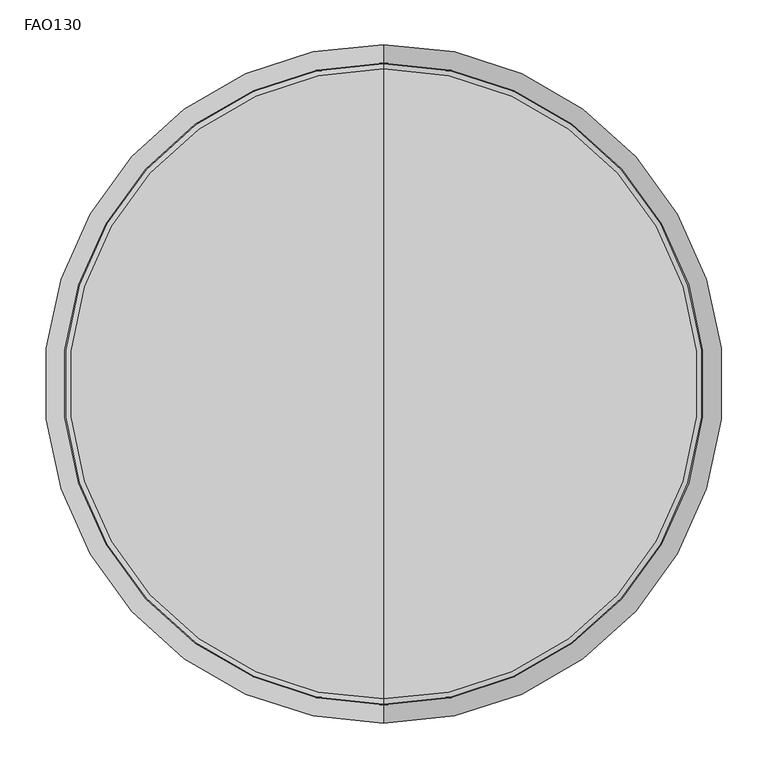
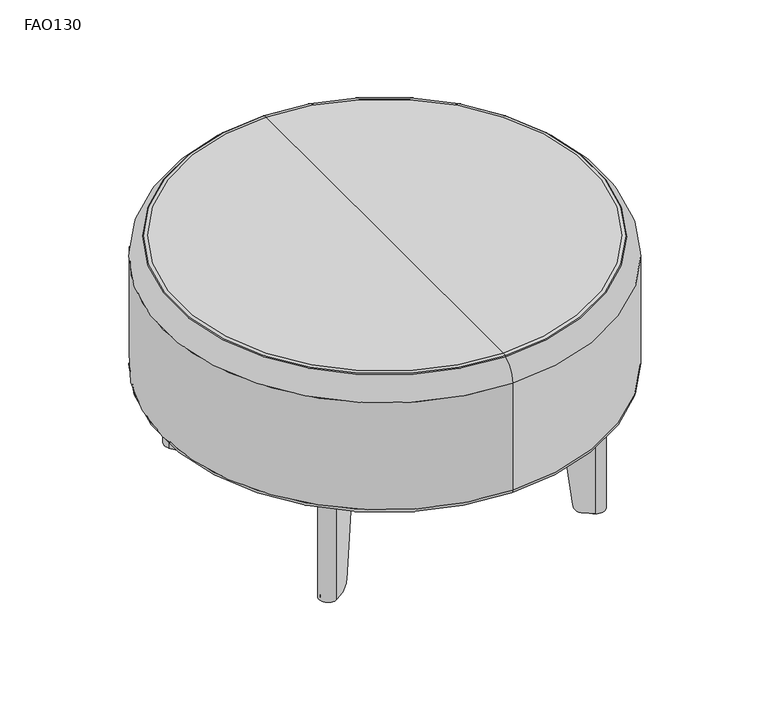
"""IFC4 building model written with IfcOpenShell, lengths in millimetres: furniture geometry, Stance_HC-Flora-Round_Otto : FAO130."""

import ifcopenshell
import ifcopenshell.guid

model = None  # the IFC model being written
_history = None  # IfcOwnerHistory: only IFC2X3 demands one
_inside = {}  # id of a spatial element -> (the spatial element, [elements in it])
_under = {}  # id of a project, library or spatial element -> (it, [spatial elements below it])
_declared = {}  # id of a project -> (the project, [libraries it declares])
_typed = {}  # id of a type object -> (the type object, [elements of that type])
_made_of = {}  # id of a material, layer set ... -> (it, [elements and type objects made of it])


def new_model(schema):
    """Start an empty IFC model of exactly this schema.

    Asked for "IFC4X3", IfcOpenShell would pick the latest addendum, in which some entities
    have other attributes; the version numbers below select the first issue.
    IFC2X3 requires an IfcOwnerHistory on every rooted entity: one is made here for all.
    """
    global model, _history
    if schema == "IFC4X3":
        model = ifcopenshell.file(schema_version=(4, 3, 0, 0))
    else:
        model = ifcopenshell.file(schema=schema)
    _inside.clear()
    _under.clear()
    _declared.clear()
    _typed.clear()
    _made_of.clear()
    _history = None
    if model.schema == "IFC2X3":
        org = make("IfcOrganization", Name="unknown")
        user = make(
            "IfcPersonAndOrganization",
            ThePerson=make("IfcPerson", FamilyName="unknown"),
            TheOrganization=org,
        )
        app = make(
            "IfcApplication",
            ApplicationDeveloper=org,
            Version="unknown",
            ApplicationFullName="unknown",
            ApplicationIdentifier="unknown",
        )
        _history = make(
            "IfcOwnerHistory",
            OwningUser=user,
            OwningApplication=app,
            ChangeAction="ADDED",
            CreationDate=0,
        )
    return model


def make(cls, **values):
    """One entity of the class cls with the attributes given. An attribute that is None is left unset."""
    return model.create_entity(
        cls, **{name: value for name, value in values.items() if value is not None}
    )


def rooted(cls, **values):
    """An entity with a GlobalId (a new one), such as an element, a storey or a relation."""
    return make(cls, GlobalId=ifcopenshell.guid.new(), OwnerHistory=_history, **values)


def si_unit(unit_type, name, prefix=None):
    """IfcSIUnit, for example si_unit("LENGTHUNIT", "METRE", prefix="MILLI")."""
    return make("IfcSIUnit", UnitType=unit_type, Prefix=prefix, Name=name)


def assignment(units):
    """IfcUnitAssignment: the units of a project."""
    return None if units is None else make("IfcUnitAssignment", Units=units)


def point(xyz):
    """IfcCartesianPoint."""
    return None if xyz is None else make("IfcCartesianPoint", Coordinates=xyz)


def direction(xyz):
    """IfcDirection."""
    return None if xyz is None else make("IfcDirection", DirectionRatios=xyz)


def frame(location, z_axis=None, x_axis=None):
    """IfcAxis2Placement3D, a coordinate frame: its origin and axes. An axis left out is left unset."""
    return make(
        "IfcAxis2Placement3D",
        Location=point(location),
        Axis=direction(z_axis),
        RefDirection=direction(x_axis),
    )


def frame_2d(location, x_axis=None):
    """IfcAxis2Placement2D, a coordinate frame in the plane: its origin and x axis."""
    return make(
        "IfcAxis2Placement2D", Location=point(location), RefDirection=direction(x_axis)
    )


def origin():
    """The frame at (0, 0, 0) with its axes left unset."""
    return frame((0.0, 0.0, 0.0))


def origin_with_axes():
    """The frame at (0, 0, 0) with the z axis (0, 0, 1) and the x axis (1, 0, 0) written out."""
    return frame((0.0, 0.0, 0.0), z_axis=(0.0, 0.0, 1.0), x_axis=(1.0, 0.0, 0.0))


def place(relative_to, where):
    """IfcLocalPlacement: puts the frame where relative to a parent placement (None: the world)."""
    return make(
        "IfcLocalPlacement", PlacementRelTo=relative_to, RelativePlacement=where
    )


def context(
    kind, dimensions, precision=None, world=None, true_north=None, identifier=None
):
    """IfcGeometricRepresentationContext, for example the 3D "Model" context."""
    return make(
        "IfcGeometricRepresentationContext",
        ContextIdentifier=identifier,
        ContextType=kind,
        CoordinateSpaceDimension=dimensions,
        Precision=precision,
        WorldCoordinateSystem=world,
        TrueNorth=true_north,
    )


def project(units=None, contexts=None):
    """IfcProject with its units and contexts."""
    return rooted(
        "IfcProject",
        Name="project",
        RepresentationContexts=contexts,
        UnitsInContext=assignment(units),
    )


def spatial(cls, under=None, at=None, **own):
    """A site, building, storey or space (cls), placed at a placement, below another one or the project."""
    s = rooted(cls, ObjectPlacement=at, **own)
    if under is not None:
        _under.setdefault(under.id(), (under, []))[1].append(s)
    return s


def polyline(points):
    """IfcPolyline through the points."""
    return make("IfcPolyline", Points=[point(p) for p in points])


def circle_curve(where, radius):
    """IfcCircle in the frame where."""
    return make("IfcCircle", Position=where, Radius=radius)


def ellipse_curve(where, semi_axis1, semi_axis2):
    """IfcEllipse in the frame where."""
    return make(
        "IfcEllipse", Position=where, SemiAxis1=semi_axis1, SemiAxis2=semi_axis2
    )


def trimmed(basis, trim1, trim2, sense, master):
    """IfcTrimmedCurve: the piece of a basis curve between two trims."""
    return make(
        "IfcTrimmedCurve",
        BasisCurve=basis,
        Trim1=trim1,
        Trim2=trim2,
        SenseAgreement=sense,
        MasterRepresentation=master,
    )


def segment(curve, same_sense, transition):
    """IfcCompositeCurveSegment."""
    return make(
        "IfcCompositeCurveSegment",
        Transition=transition,
        SameSense=same_sense,
        ParentCurve=curve,
    )


def composite_curve(segments, self_intersect=None):
    """IfcCompositeCurve: segments joined end to end."""
    return make("IfcCompositeCurve", Segments=segments, SelfIntersect=self_intersect)


def outline(outer, holes=None, kind="AREA"):
    """IfcArbitraryClosedProfileDef: a profile drawn as a closed curve; with holes, ...WithVoids."""
    if holes is None:
        return make("IfcArbitraryClosedProfileDef", ProfileType=kind, OuterCurve=outer)
    return make(
        "IfcArbitraryProfileDefWithVoids",
        ProfileType=kind,
        OuterCurve=outer,
        InnerCurves=holes,
    )


def extrude(swept, where, along, depth):
    """IfcExtrudedAreaSolid: the profile swept, set in the frame where, extruded along a direction by depth."""
    return make(
        "IfcExtrudedAreaSolid",
        SweptArea=swept,
        Position=where,
        ExtrudedDirection=direction(along),
        Depth=depth,
    )


def shape(context_of_items, identifier, shape_type, items):
    """IfcShapeRepresentation: the items that make up one representation, for example the "Body"."""
    return make(
        "IfcShapeRepresentation",
        ContextOfItems=context_of_items,
        RepresentationIdentifier=identifier,
        RepresentationType=shape_type,
        Items=items,
    )


def source(mapping_origin, context_of_items, identifier, shape_type, items):
    """IfcRepresentationMap: a shape defined once, which mapped items show again and again."""
    return make(
        "IfcRepresentationMap",
        MappingOrigin=mapping_origin,
        MappedRepresentation=shape(context_of_items, identifier, shape_type, items),
    )


def transform(
    local_origin,
    x_axis=None,
    y_axis=None,
    z_axis=None,
    scale=None,
    scale2=None,
    scale3=None,
    uniform=True,
):
    """IfcCartesianTransformationOperator3D, or its non-uniform kind. x_axis, y_axis, z_axis: its Axis1, 2, 3."""
    if uniform:
        return make(
            "IfcCartesianTransformationOperator3D",
            Axis1=direction(x_axis),
            Axis2=direction(y_axis),
            LocalOrigin=point(local_origin),
            Scale=scale,
            Axis3=direction(z_axis),
        )
    return make(
        "IfcCartesianTransformationOperator3DnonUniform",
        Axis1=direction(x_axis),
        Axis2=direction(y_axis),
        LocalOrigin=point(local_origin),
        Scale=scale,
        Axis3=direction(z_axis),
        Scale2=scale2,
        Scale3=scale3,
    )


def mapped(mapping_source, mapping_target):
    """IfcMappedItem: shows the shape of a source again, moved by a transform."""
    return make(
        "IfcMappedItem", MappingSource=mapping_source, MappingTarget=mapping_target
    )


def made_of(thing, what):
    """Note that an element or type object is made of a material, layer set ...; save() writes the relation."""
    if what is not None:
        _made_of.setdefault(what.id(), (what, []))[1].append(thing)
    return thing


def element(
    cls,
    number,
    at=None,
    inside=None,
    cuts=None,
    type_object=None,
    material=None,
    context=None,
    identifier="Body",
    shape_type=None,
    held_by="IfcProductDefinitionShape",
    body=None,
    shapes=None,
    **own,
):
    """One element of the class cls, such as IfcWall. Its Tag is "e" and its number.

    at: its placement. inside: the storey or other place that contains it. cuts: it is an
    opening in that element (IfcRelVoidsElement). A single representation is given by context,
    identifier, shape_type and body (its items); several are given by shapes. held_by: the class
    of the entity that holds the representations. save() writes the other relations.
    """
    e = rooted(cls, Tag="e%d" % number, ObjectPlacement=at, **own)
    if body is not None:
        shapes = [shape(context, identifier, shape_type, body)]
    if shapes is not None:
        e.Representation = make(held_by, Representations=shapes)
    if inside is not None:
        _inside.setdefault(inside.id(), (inside, []))[1].append(e)
    if cuts is not None:
        rooted(
            "IfcRelVoidsElement", RelatingBuildingElement=cuts, RelatedOpeningElement=e
        )
    if type_object is not None:
        _typed.setdefault(type_object.id(), (type_object, []))[1].append(e)
    return made_of(e, material)


def aggregate(whole, parts):
    """IfcRelAggregates: a whole, such as a stair, and the parts it consists of."""
    return rooted("IfcRelAggregates", RelatingObject=whole, RelatedObjects=parts)


def save(model, path):
    """Write the relations noted so far, then the file.

    IfcRelAggregates (storeys below a building ...), IfcRelContainedInSpatialStructure (elements
    in a storey), IfcRelDefinesByType, IfcRelAssociatesMaterial and IfcRelDeclares: one each for
    every whole, place, type object, material and project.
    """
    for whole, parts in _under.values():
        aggregate(whole, parts)
    for where, things in _inside.values():
        rooted(
            "IfcRelContainedInSpatialStructure",
            RelatedElements=things,
            RelatingStructure=where,
        )
    for kind, things in _typed.values():
        rooted("IfcRelDefinesByType", RelatedObjects=things, RelatingType=kind)
    for what, things in _made_of.values():
        rooted("IfcRelAssociatesMaterial", RelatedObjects=things, RelatingMaterial=what)
    for by, libraries in _declared.values():
        rooted("IfcRelDeclares", RelatingContext=by, RelatedDefinitions=libraries)
    model.write(path)


def plane_surface(at):
    """IfcPlane: the flat surface through the origin of the frame at, square to its z axis."""
    return make("IfcPlane", Position=at)


def cylinder_surface(at, radius):
    """IfcCylindricalSurface: all points at the distance radius from the z axis of the frame at."""
    return make("IfcCylindricalSurface", Position=at, Radius=radius)


def revolved_surface(curve, axis_point, axis_direction):
    """IfcSurfaceOfRevolution: the curve turned about the line through axis_point along axis_direction."""
    return make(
        "IfcSurfaceOfRevolution",
        SweptCurve=make("IfcArbitraryOpenProfileDef", ProfileType="CURVE", Curve=curve),
        AxisPosition=make("IfcAxis1Placement", Location=point(axis_point), Axis=direction(axis_direction)),
    )


def advanced_brep(points, edges, surfaces, faces):
    """IfcAdvancedBrep: a solid bounded by faces that lie on surfaces and meet in shared edges.

    An edge is (start, end): straight between two places in points (the first is 0);
    or (start, end, curve); or (start, end, curve, False) where it runs against its curve.
    A face is (place in surfaces, loops), or (place, loops, False) where it looks against
    its surface's normal. A loop lists edges by number (the first is 1), with a minus sign
    where the edge is run from its end to its start. The first loop is the outer one.
    """
    corners = [point(p) for p in points]
    vertices = [make("IfcVertexPoint", VertexGeometry=c) for c in corners]
    made = []
    for start, end, *more in edges:
        made.append(
            make(
                "IfcEdgeCurve",
                EdgeStart=vertices[start],
                EdgeEnd=vertices[end],
                EdgeGeometry=more[0] if more else make("IfcPolyline", Points=[corners[start], corners[end]]),
                SameSense=more[1] if len(more) > 1 else True,
            )
        )
    hull = []
    for where, loops, *sense in faces:
        bounds = []
        for j, loop in enumerate(loops):
            ring = [make("IfcOrientedEdge", EdgeElement=made[abs(k) - 1], Orientation=k > 0) for k in loop]
            bounds.append(
                make(
                    "IfcFaceOuterBound" if j == 0 else "IfcFaceBound",
                    Bound=make("IfcEdgeLoop", EdgeList=ring),
                    Orientation=True,
                )
            )
        hull.append(make("IfcAdvancedFace", Bounds=bounds, FaceSurface=surfaces[where], SameSense=sense[0] if sense else True))
    return make("IfcAdvancedBrep", Outer=make("IfcClosedShell", CfsFaces=hull))


def fao130_a09f7fab(model_context):
    return source(origin(), model_context, "Body", "SolidModel", [
        extrude(outline(composite_curve([segment(polyline([(210.6779251, -230.806629), (230.815006, -210.669548), (240.1312333, -223.9744477)]), True, "CONTINUOUS"), segment(trimmed(circle_curve(frame_2d((230.6333442, -230.6249671)), 11.5947965), [point((240.1312333, -223.9744477))], [point((223.9828248, -240.1228563))], False, "CARTESIAN"), True, "CONTINUOUS"), segment(polyline([(223.9828248, -240.1228563), (210.6779251, -230.806629)]), True, "CONTINUOUS")], self_intersect=False)), frame((0.0, 0.0, 3.175), z_axis=(0.0, 0.0, 1.0), x_axis=(1.0, 0.0, 0.0)), (0.0, 0.0, 1.0), 3.3792927),
        advanced_brep(
        [(210.8401042, -176.5386381, 193.6877233), (208.2071268, -178.3822758, 193.6877233), (240.1312333, -223.9744477, 193.6877233), (223.9828248, -240.1228563, 193.6877233), (178.3906556, -208.1987516, 193.6877233), (176.5470178, -210.831729, 193.6877233), (222.1391871, -242.7558336, 193.6877233), (242.7642107, -222.13081, 193.6877233), (210.8401042, -176.5386381, 189.1419595), (220.8334277, -196.4144322, 17.1280233), (230.0105238, -209.5206327, 3.1876992), (240.1312333, -223.9744477, 3.1876992), (223.9828248, -240.1228563, 3.1876992), (209.5290098, -230.0021467, 3.1876992), (196.4228092, -220.8250506, 17.1280233), (176.5470178, -210.831729, 189.1419334), (194.1149115, -223.1329483, 17.1280233), (207.2211121, -232.3100444, 3.1876992), (222.1391871, -242.7558336, 3.1876992), (242.7642107, -222.13081, 3.1876992), (232.3184215, -207.212735, 3.1876992), (223.1413254, -194.1065344, 17.1280233)],
        [
            (0, 1),
            (1, 2),
            (2, 3, circle_curve(frame((230.6333442, -230.6249671, 193.6877233), z_axis=(0.0, 0.0, -1.0), x_axis=(-1.0, 0.0, 0.0)), 11.5947965)),
            (3, 4),
            (4, 5),
            (5, 6),
            (6, 7, circle_curve(frame((230.6333442, -230.6249671, 193.6877233), z_axis=(0.0, 0.0, 1.0), x_axis=(-1.0, 0.0, 0.0)), 14.8090724)),
            (7, 0),
            (0, 8),
            (8, 1),
            (1, 9),
            (9, 10, ellipse_curve(frame((230.0105238, -209.5206327, 19.0626992), z_axis=(-0.8191509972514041, -0.5735779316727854, 0.0), x_axis=(-0.5735779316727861, 0.8191509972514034, 0.0)), 16.1198923, 15.875)),
            (10, 11),
            (11, 2),
            (11, 12, circle_curve(frame((230.6333442, -230.6249671, 3.1876992), z_axis=(0.0, 0.0, -1.0), x_axis=(-1.0, 0.0, 0.0)), 11.5947965)),
            (12, 3),
            (12, 13),
            (13, 14, ellipse_curve(frame((209.5290098, -230.0021467, 19.0626992), z_axis=(0.5735779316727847, 0.8191509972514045, 0.0), x_axis=(0.8191509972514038, -0.5735779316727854, 0.0)), 16.1198923, 15.875)),
            (14, 4),
            (4, 15),
            (15, 5),
            (15, 16),
            (16, 17, ellipse_curve(frame((207.2211121, -232.3100444, 19.0626992), z_axis=(-0.5735779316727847, -0.8191509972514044, 0.0), x_axis=(0.8191509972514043, -0.573577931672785, 0.0)), 16.1198923, 15.875)),
            (17, 18),
            (18, 6),
            (18, 19, circle_curve(frame((230.6333442, -230.6249671, 3.1876992), z_axis=(0.0, 0.0, 1.0), x_axis=(-1.0, 0.0, 0.0)), 14.8090724)),
            (19, 7),
            (19, 20),
            (20, 21, ellipse_curve(frame((232.3184215, -207.212735, 19.0626992), z_axis=(0.8191509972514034, 0.5735779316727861, 0.0), x_axis=(-0.5735779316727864, 0.8191509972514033, 0.0)), 16.1198923, 15.875)),
            (21, 8),
            (14, 16),
            (21, 9),
            (17, 13),
            (10, 20),
        ],
        [
            plane_surface(frame((208.2071268, -178.3822758, 193.6877233), z_axis=(0.0, 0.0, 1.0000000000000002), x_axis=(-0.8191509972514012, -0.5735779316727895, 0.0))),
            plane_surface(frame((210.8401042, -176.5386381, 193.6877233), z_axis=(-0.5735779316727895, 0.8191509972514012, 0.0), x_axis=(0.0, 0.0, -1.0))),
            plane_surface(frame((208.2071268, -178.3822758, 193.6877233), z_axis=(-0.8191509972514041, -0.5735779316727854, 0.0), x_axis=(0.0, 0.0, -1.0))),
            revolved_surface(polyline([(219.0385477, -230.6249671, 3.1876992), (219.0385477, -230.6249671, 193.6877233)]), (230.6333442, -230.6249671, 0.0), (0.0, 0.0, -1.0)),
            plane_surface(frame((223.9828248, -240.1228563, 193.6877233), z_axis=(0.5735779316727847, 0.8191509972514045, 0.0), x_axis=(0.0, 0.0, -1.0))),
            plane_surface(frame((178.3906556, -208.1987516, 193.6877233), z_axis=(-0.8191509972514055, 0.5735779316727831, 0.0), x_axis=(0.0, 0.0, -1.0))),
            plane_surface(frame((176.5470178, -210.831729, 193.6877233), z_axis=(-0.5735779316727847, -0.8191509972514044, 0.0), x_axis=(0.0, 0.0, -1.0))),
            cylinder_surface(frame((230.6333442, -230.6249671, 0.0), z_axis=(0.0, 0.0, 1.0), x_axis=(-1.0, 0.0, 0.0)), 14.8090724),
            plane_surface(frame((242.7642107, -222.13081, 193.6877233), z_axis=(0.8191509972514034, 0.5735779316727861, 0.0), x_axis=(0.0, 0.0, -1.0))),
            plane_surface(frame((188.2311084, -229.0167515, 17.1280233), z_axis=(-0.7018361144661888, 0.7018361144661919, -0.12186934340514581), x_axis=(0.7071067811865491, 0.707106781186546, 0.0))),
            plane_surface(frame((220.7214639, -261.5071069, 3.1876992), z_axis=(0.0, 0.0, -1.0), x_axis=(0.707106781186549, 0.707106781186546, 0.0))),
            cylinder_surface(frame((240.1583998, -199.3727567, 19.0626992), z_axis=(0.7071067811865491, 0.707106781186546, 0.0), x_axis=(-0.707106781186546, 0.7071067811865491, 0.0)), 15.875),
        ],
        [
            (0, [[1, 2, 3, 4, 5, 6, 7, 8]]),
            (1, [[-1, 9, 10]]),
            (2, [[-2, 11, 12, 13, 14]]),
            (3, [[-3, -14, 15, 16]]),
            (4, [[-4, -16, 17, 18, 19]]),
            (5, [[-5, 20, 21]]),
            (6, [[-6, -21, 22, 23, 24, 25]]),
            (7, [[-7, -25, 26, 27]]),
            (8, [[-8, -27, 28, 29, 30, -9]]),
            (9, [[31, -22, -20, -19]]),
            (9, [[32, -11, -10, -30]]),
            (10, [[33, -17, -15, -13, 34, -28, -26, -24]]),
            (11, [[-31, -18, -33, -23]]),
            (11, [[-32, -29, -34, -12]]),
        ],
    ),
        extrude(outline(composite_curve([segment(trimmed(circle_curve(frame_2d((228.6, -228.6)), 11.1125), [point((239.7125, -228.6))], [point((217.4875, -228.6))], False, "CARTESIAN"), True, "CONTINUOUS"), segment(trimmed(circle_curve(frame_2d((228.6, -228.6)), 11.1125), [point((217.4875, -228.6))], [point((239.7125, -228.6))], False, "CARTESIAN"), True, "CONTINUOUS")], self_intersect=False)), origin_with_axes(), (0.0, 0.0, 1.0), 3.175),
        extrude(outline(composite_curve([segment(polyline([(230.8450687, -247.7804017), (130.7836699, -240.7834282), (100.9332978, -210.9330561), (126.9983323, -126.9899477), (210.9414324, -100.9249287), (240.7918062, -130.7752971), (247.788778, -230.8366927)]), True, "CONTINUOUS"), segment(trimmed(circle_curve(frame_2d((231.9524523, -231.9440761)), 15.8749964), [point((247.788778, -230.8366927))], [point((230.8450687, -247.7804017))], False, "CARTESIAN"), True, "CONTINUOUS")], self_intersect=False)), frame((0.0, 0.0, 193.6877233), z_axis=(0.0, 0.0, 1.0), x_axis=(1.0, 0.0, 0.0)), (0.0, 0.0, 1.0), 4.7751809),
        extrude(outline(composite_curve([segment(polyline([(-210.6779251, -230.806629), (-223.9828248, -240.1228563)]), True, "CONTINUOUS"), segment(trimmed(circle_curve(frame_2d((-230.6333442, -230.6249671)), 11.5947965), [point((-223.9828248, -240.1228563))], [point((-240.1312333, -223.9744477))], False, "CARTESIAN"), True, "CONTINUOUS"), segment(polyline([(-240.1312333, -223.9744477), (-230.815006, -210.669548), (-210.6779251, -230.806629)]), True, "CONTINUOUS")], self_intersect=False)), frame((0.0, 0.0, 3.175), z_axis=(0.0, 0.0, 1.0), x_axis=(1.0, 0.0, 0.0)), (0.0, 0.0, 1.0), 3.3792927),
        advanced_brep(
        [(-210.8401042, -176.5386381, 193.6877233), (-242.7642107, -222.13081, 193.6877233), (-222.1391871, -242.7558336, 193.6877233), (-176.5470178, -210.831729, 193.6877233), (-178.3906556, -208.1987516, 193.6877233), (-223.9828248, -240.1228563, 193.6877233), (-240.1312333, -223.9744477, 193.6877233), (-208.2071268, -178.3822758, 193.6877233), (-210.8401042, -176.5386381, 189.1419595), (-240.1312333, -223.9744477, 3.1876992), (-230.0105238, -209.5206327, 3.1876992), (-220.8334277, -196.4144322, 17.1280233), (-223.9828248, -240.1228563, 3.1876992), (-196.4228092, -220.8250506, 17.1280233), (-209.5290098, -230.0021467, 3.1876992), (-176.5470178, -210.831729, 189.1419334), (-222.1391871, -242.7558336, 3.1876992), (-207.2211121, -232.3100444, 3.1876992), (-194.1149115, -223.1329483, 17.1280233), (-242.7642107, -222.13081, 3.1876992), (-223.1413254, -194.1065344, 17.1280233), (-232.3184215, -207.212735, 3.1876992)],
        [
            (0, 1),
            (1, 2, circle_curve(frame((-230.6333442, -230.6249671, 193.6877233), z_axis=(0.0, 0.0, 1.0), x_axis=(1.0, 0.0, 0.0)), 14.8090724)),
            (2, 3),
            (3, 4),
            (4, 5),
            (5, 6, circle_curve(frame((-230.6333442, -230.6249671, 193.6877233), z_axis=(0.0, 0.0, -1.0), x_axis=(1.0, 0.0, 0.0)), 11.5947965)),
            (6, 7),
            (7, 0),
            (7, 8),
            (8, 0),
            (6, 9),
            (9, 10),
            (10, 11, ellipse_curve(frame((-230.0105238, -209.5206327, 19.0626992), z_axis=(0.8191509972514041, -0.5735779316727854, 0.0), x_axis=(0.5735779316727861, 0.8191509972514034, 0.0)), 16.1198923, 15.875)),
            (11, 7),
            (5, 12),
            (12, 9, circle_curve(frame((-230.6333442, -230.6249671, 3.1876992), z_axis=(0.0, 0.0, -1.0), x_axis=(1.0, 0.0, 0.0)), 11.5947965)),
            (4, 13),
            (13, 14, ellipse_curve(frame((-209.5290098, -230.0021467, 19.0626992), z_axis=(-0.5735779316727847, 0.8191509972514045, 0.0), x_axis=(-0.8191509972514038, -0.5735779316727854, 0.0)), 16.1198923, 15.875)),
            (14, 12),
            (3, 15),
            (15, 4),
            (2, 16),
            (16, 17),
            (17, 18, ellipse_curve(frame((-207.2211121, -232.3100444, 19.0626992), z_axis=(0.5735779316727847, -0.8191509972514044, 0.0), x_axis=(-0.8191509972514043, -0.573577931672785, 0.0)), 16.1198923, 15.875)),
            (18, 15),
            (1, 19),
            (19, 16, circle_curve(frame((-230.6333442, -230.6249671, 3.1876992), z_axis=(0.0, 0.0, 1.0), x_axis=(1.0, 0.0, 0.0)), 14.8090724)),
            (8, 20),
            (20, 21, ellipse_curve(frame((-232.3184215, -207.212735, 19.0626992), z_axis=(-0.8191509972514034, 0.5735779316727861, 0.0), x_axis=(0.5735779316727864, 0.8191509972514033, 0.0)), 16.1198923, 15.875)),
            (21, 19),
            (18, 13),
            (11, 20),
            (21, 10),
            (14, 17),
        ],
        [
            plane_surface(frame((-208.2071268, -178.3822758, 193.6877233), z_axis=(0.0, 0.0, 1.0000000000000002), x_axis=(0.8191509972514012, -0.5735779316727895, 0.0))),
            plane_surface(frame((-210.8401042, -176.5386381, 193.6877233), z_axis=(0.5735779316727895, 0.8191509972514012, 0.0), x_axis=(0.0, 0.0, -1.0))),
            plane_surface(frame((-208.2071268, -178.3822758, 193.6877233), z_axis=(0.8191509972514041, -0.5735779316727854, 0.0), x_axis=(0.0, 0.0, -1.0))),
            revolved_surface(polyline([(-219.0385477, -230.6249671, 3.1876992), (-219.0385477, -230.6249671, 193.6877233)]), (-230.6333442, -230.6249671, 0.0), (0.0, 0.0, -1.0)),
            plane_surface(frame((-223.9828248, -240.1228563, 193.6877233), z_axis=(-0.5735779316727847, 0.8191509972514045, 0.0), x_axis=(0.0, 0.0, -1.0))),
            plane_surface(frame((-178.3906556, -208.1987516, 193.6877233), z_axis=(0.8191509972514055, 0.5735779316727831, 0.0), x_axis=(0.0, 0.0, -1.0))),
            plane_surface(frame((-176.5470178, -210.831729, 193.6877233), z_axis=(0.5735779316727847, -0.8191509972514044, 0.0), x_axis=(0.0, 0.0, -1.0))),
            cylinder_surface(frame((-230.6333442, -230.6249671, 0.0), z_axis=(0.0, 0.0, 1.0), x_axis=(1.0, 0.0, 0.0)), 14.8090724),
            plane_surface(frame((-242.7642107, -222.13081, 193.6877233), z_axis=(-0.8191509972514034, 0.5735779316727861, 0.0), x_axis=(0.0, 0.0, -1.0))),
            plane_surface(frame((-188.2311084, -229.0167515, 17.1280233), z_axis=(0.7018361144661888, 0.7018361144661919, -0.12186934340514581), x_axis=(-0.7071067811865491, 0.707106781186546, 0.0))),
            plane_surface(frame((-220.7214639, -261.5071069, 3.1876992), z_axis=(0.0, 0.0, -1.0), x_axis=(-0.707106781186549, 0.707106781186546, 0.0))),
            cylinder_surface(frame((-240.1583998, -199.3727567, 19.0626992), z_axis=(-0.7071067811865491, 0.707106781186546, 0.0), x_axis=(0.707106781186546, 0.7071067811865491, 0.0)), 15.875),
        ],
        [
            (0, [[1, 2, 3, 4, 5, 6, 7, 8]]),
            (1, [[9, 10, -8]]),
            (2, [[11, 12, 13, 14, -7]]),
            (3, [[15, 16, -11, -6]]),
            (4, [[17, 18, 19, -15, -5]]),
            (5, [[20, 21, -4]]),
            (6, [[22, 23, 24, 25, -20, -3]]),
            (7, [[26, 27, -22, -2]]),
            (8, [[-10, 28, 29, 30, -26, -1]]),
            (9, [[-17, -21, -25, 31]]),
            (9, [[-28, -9, -14, 32]]),
            (10, [[-23, -27, -30, 33, -12, -16, -19, 34]]),
            (11, [[-13, -33, -29, -32]]),
            (11, [[-24, -34, -18, -31]]),
        ],
    ),
        extrude(outline(composite_curve([segment(trimmed(circle_curve(frame_2d((-228.6, -228.6)), 11.1125), [point((-239.7125, -228.6))], [point((-217.4875, -228.6))], False, "CARTESIAN"), True, "CONTINUOUS"), segment(trimmed(circle_curve(frame_2d((-228.6, -228.6)), 11.1125), [point((-217.4875, -228.6))], [point((-239.7125, -228.6))], False, "CARTESIAN"), True, "CONTINUOUS")], self_intersect=False)), origin_with_axes(), (0.0, 0.0, 1.0), 3.175),
        extrude(outline(composite_curve([segment(trimmed(circle_curve(frame_2d((-231.9524523, -231.9440761)), 15.8749964), [point((-230.8450687, -247.7804017))], [point((-247.788778, -230.8366927))], False, "CARTESIAN"), True, "CONTINUOUS"), segment(polyline([(-247.788778, -230.8366927), (-240.7918062, -130.7752971), (-210.9414324, -100.9249287), (-126.9983323, -126.9899477), (-100.9332978, -210.9330561), (-130.7836699, -240.7834282), (-230.8450687, -247.7804017)]), True, "CONTINUOUS")], self_intersect=False)), frame((0.0, 0.0, 193.6877233), z_axis=(0.0, 0.0, 1.0), x_axis=(1.0, 0.0, 0.0)), (0.0, 0.0, 1.0), 4.7751809),
        extrude(outline(composite_curve([segment(polyline([(210.6779251, 230.806629), (223.9828248, 240.1228563)]), True, "CONTINUOUS"), segment(trimmed(circle_curve(frame_2d((230.6333442, 230.6249671)), 11.5947965), [point((223.9828248, 240.1228563))], [point((240.1312333, 223.9744477))], False, "CARTESIAN"), True, "CONTINUOUS"), segment(polyline([(240.1312333, 223.9744477), (230.815006, 210.669548), (210.6779251, 230.806629)]), True, "CONTINUOUS")], self_intersect=False)), frame((0.0, 0.0, 3.175), z_axis=(0.0, 0.0, 1.0), x_axis=(1.0, 0.0, 0.0)), (0.0, 0.0, 1.0), 3.3792927),
        advanced_brep(
        [(210.8401042, 176.5386381, 193.6877233), (242.7642107, 222.13081, 193.6877233), (222.1391871, 242.7558336, 193.6877233), (176.5470178, 210.831729, 193.6877233), (178.3906556, 208.1987516, 193.6877233), (223.9828248, 240.1228563, 193.6877233), (240.1312333, 223.9744477, 193.6877233), (208.2071268, 178.3822758, 193.6877233), (210.8401042, 176.5386381, 189.1419595), (240.1312333, 223.9744477, 3.1876992), (230.0105238, 209.5206327, 3.1876992), (220.8334277, 196.4144322, 17.1280233), (223.9828248, 240.1228563, 3.1876992), (196.4228092, 220.8250506, 17.1280233), (209.5290098, 230.0021467, 3.1876992), (176.5470178, 210.831729, 189.1419334), (222.1391871, 242.7558336, 3.1876992), (207.2211121, 232.3100444, 3.1876992), (194.1149115, 223.1329483, 17.1280233), (242.7642107, 222.13081, 3.1876992), (223.1413254, 194.1065344, 17.1280233), (232.3184215, 207.212735, 3.1876992)],
        [
            (0, 1),
            (1, 2, circle_curve(frame((230.6333442, 230.6249671, 193.6877233), z_axis=(0.0, 0.0, 1.0), x_axis=(-1.0, 0.0, 0.0)), 14.8090724)),
            (2, 3),
            (3, 4),
            (4, 5),
            (5, 6, circle_curve(frame((230.6333442, 230.6249671, 193.6877233), z_axis=(0.0, 0.0, -1.0), x_axis=(-1.0, 0.0, 0.0)), 11.5947965)),
            (6, 7),
            (7, 0),
            (7, 8),
            (8, 0),
            (6, 9),
            (9, 10),
            (10, 11, ellipse_curve(frame((230.0105238, 209.5206327, 19.0626992), z_axis=(-0.8191509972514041, 0.5735779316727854, 0.0), x_axis=(-0.5735779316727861, -0.8191509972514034, 0.0)), 16.1198923, 15.875)),
            (11, 7),
            (5, 12),
            (12, 9, circle_curve(frame((230.6333442, 230.6249671, 3.1876992), z_axis=(0.0, 0.0, -1.0), x_axis=(-1.0, 0.0, 0.0)), 11.5947965)),
            (4, 13),
            (13, 14, ellipse_curve(frame((209.5290098, 230.0021467, 19.0626992), z_axis=(0.5735779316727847, -0.8191509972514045, 0.0), x_axis=(0.8191509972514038, 0.5735779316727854, 0.0)), 16.1198923, 15.875)),
            (14, 12),
            (3, 15),
            (15, 4),
            (2, 16),
            (16, 17),
            (17, 18, ellipse_curve(frame((207.2211121, 232.3100444, 19.0626992), z_axis=(-0.5735779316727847, 0.8191509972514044, 0.0), x_axis=(0.8191509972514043, 0.573577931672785, 0.0)), 16.1198923, 15.875)),
            (18, 15),
            (1, 19),
            (19, 16, circle_curve(frame((230.6333442, 230.6249671, 3.1876992), z_axis=(0.0, 0.0, 1.0), x_axis=(-1.0, 0.0, 0.0)), 14.8090724)),
            (8, 20),
            (20, 21, ellipse_curve(frame((232.3184215, 207.212735, 19.0626992), z_axis=(0.8191509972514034, -0.5735779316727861, 0.0), x_axis=(-0.5735779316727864, -0.8191509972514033, 0.0)), 16.1198923, 15.875)),
            (21, 19),
            (18, 13),
            (11, 20),
            (21, 10),
            (14, 17),
        ],
        [
            plane_surface(frame((208.2071268, 178.3822758, 193.6877233), z_axis=(0.0, 0.0, 1.0000000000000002), x_axis=(-0.8191509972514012, 0.5735779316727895, 0.0))),
            plane_surface(frame((210.8401042, 176.5386381, 193.6877233), z_axis=(-0.5735779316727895, -0.8191509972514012, 0.0), x_axis=(0.0, 0.0, -1.0))),
            plane_surface(frame((208.2071268, 178.3822758, 193.6877233), z_axis=(-0.8191509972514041, 0.5735779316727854, 0.0), x_axis=(0.0, 0.0, -1.0))),
            revolved_surface(polyline([(219.0385477, 230.6249671, 3.1876992), (219.0385477, 230.6249671, 193.6877233)]), (230.6333442, 230.6249671, 0.0), (0.0, 0.0, -1.0)),
            plane_surface(frame((223.9828248, 240.1228563, 193.6877233), z_axis=(0.5735779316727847, -0.8191509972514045, 0.0), x_axis=(0.0, 0.0, -1.0))),
            plane_surface(frame((178.3906556, 208.1987516, 193.6877233), z_axis=(-0.8191509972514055, -0.5735779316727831, 0.0), x_axis=(0.0, 0.0, -1.0))),
            plane_surface(frame((176.5470178, 210.831729, 193.6877233), z_axis=(-0.5735779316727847, 0.8191509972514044, 0.0), x_axis=(0.0, 0.0, -1.0))),
            cylinder_surface(frame((230.6333442, 230.6249671, 0.0), z_axis=(0.0, 0.0, 1.0), x_axis=(-1.0, 0.0, 0.0)), 14.8090724),
            plane_surface(frame((242.7642107, 222.13081, 193.6877233), z_axis=(0.8191509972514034, -0.5735779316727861, 0.0), x_axis=(0.0, 0.0, -1.0))),
            plane_surface(frame((188.2311084, 229.0167515, 17.1280233), z_axis=(-0.7018361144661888, -0.7018361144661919, -0.12186934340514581), x_axis=(0.7071067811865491, -0.707106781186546, 0.0))),
            plane_surface(frame((220.7214639, 261.5071069, 3.1876992), z_axis=(0.0, 0.0, -1.0), x_axis=(0.707106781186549, -0.707106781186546, 0.0))),
            cylinder_surface(frame((240.1583998, 199.3727567, 19.0626992), z_axis=(0.7071067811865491, -0.707106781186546, 0.0), x_axis=(-0.707106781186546, -0.7071067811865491, 0.0)), 15.875),
        ],
        [
            (0, [[1, 2, 3, 4, 5, 6, 7, 8]]),
            (1, [[9, 10, -8]]),
            (2, [[11, 12, 13, 14, -7]]),
            (3, [[15, 16, -11, -6]]),
            (4, [[17, 18, 19, -15, -5]]),
            (5, [[20, 21, -4]]),
            (6, [[22, 23, 24, 25, -20, -3]]),
            (7, [[26, 27, -22, -2]]),
            (8, [[-10, 28, 29, 30, -26, -1]]),
            (9, [[-17, -21, -25, 31]]),
            (9, [[-28, -9, -14, 32]]),
            (10, [[-23, -27, -30, 33, -12, -16, -19, 34]]),
            (11, [[-13, -33, -29, -32]]),
            (11, [[-24, -34, -18, -31]]),
        ],
    ),
        extrude(outline(composite_curve([segment(trimmed(circle_curve(frame_2d((228.6, 228.6)), 11.1125), [point((239.7125, 228.6))], [point((217.4875, 228.6))], False, "CARTESIAN"), True, "CONTINUOUS"), segment(trimmed(circle_curve(frame_2d((228.6, 228.6)), 11.1125), [point((217.4875, 228.6))], [point((239.7125, 228.6))], False, "CARTESIAN"), True, "CONTINUOUS")], self_intersect=False)), origin_with_axes(), (0.0, 0.0, 1.0), 3.175),
        extrude(outline(composite_curve([segment(trimmed(circle_curve(frame_2d((231.9524523, 231.9440761)), 15.8749964), [point((230.8450687, 247.7804017))], [point((247.788778, 230.8366927))], False, "CARTESIAN"), True, "CONTINUOUS"), segment(polyline([(247.788778, 230.8366927), (240.7918062, 130.7752971), (210.9414324, 100.9249287), (126.9983323, 126.9899477), (100.9332978, 210.9330561), (130.7836699, 240.7834282), (230.8450687, 247.7804017)]), True, "CONTINUOUS")], self_intersect=False)), frame((0.0, 0.0, 193.6877233), z_axis=(0.0, 0.0, 1.0), x_axis=(1.0, 0.0, 0.0)), (0.0, 0.0, 1.0), 4.7751809),
        extrude(outline(composite_curve([segment(polyline([(-210.6779251, 230.806629), (-230.815006, 210.669548), (-240.1312333, 223.9744477)]), True, "CONTINUOUS"), segment(trimmed(circle_curve(frame_2d((-230.6333442, 230.6249671)), 11.5947965), [point((-240.1312333, 223.9744477))], [point((-223.9828248, 240.1228563))], False, "CARTESIAN"), True, "CONTINUOUS"), segment(polyline([(-223.9828248, 240.1228563), (-210.6779251, 230.806629)]), True, "CONTINUOUS")], self_intersect=False)), frame((0.0, 0.0, 3.175), z_axis=(0.0, 0.0, 1.0), x_axis=(1.0, 0.0, 0.0)), (0.0, 0.0, 1.0), 3.3792927),
        advanced_brep(
        [(-210.8401042, 176.5386381, 193.6877233), (-208.2071268, 178.3822758, 193.6877233), (-240.1312333, 223.9744477, 193.6877233), (-223.9828248, 240.1228563, 193.6877233), (-178.3906556, 208.1987516, 193.6877233), (-176.5470178, 210.831729, 193.6877233), (-222.1391871, 242.7558336, 193.6877233), (-242.7642107, 222.13081, 193.6877233), (-210.8401042, 176.5386381, 189.1419595), (-220.8334277, 196.4144322, 17.1280233), (-230.0105238, 209.5206327, 3.1876992), (-240.1312333, 223.9744477, 3.1876992), (-223.9828248, 240.1228563, 3.1876992), (-209.5290098, 230.0021467, 3.1876992), (-196.4228092, 220.8250506, 17.1280233), (-176.5470178, 210.831729, 189.1419334), (-194.1149115, 223.1329483, 17.1280233), (-207.2211121, 232.3100444, 3.1876992), (-222.1391871, 242.7558336, 3.1876992), (-242.7642107, 222.13081, 3.1876992), (-232.3184215, 207.212735, 3.1876992), (-223.1413254, 194.1065344, 17.1280233)],
        [
            (0, 1),
            (1, 2),
            (2, 3, circle_curve(frame((-230.6333442, 230.6249671, 193.6877233), z_axis=(0.0, 0.0, -1.0), x_axis=(1.0, 0.0, 0.0)), 11.5947965)),
            (3, 4),
            (4, 5),
            (5, 6),
            (6, 7, circle_curve(frame((-230.6333442, 230.6249671, 193.6877233), z_axis=(0.0, 0.0, 1.0), x_axis=(1.0, 0.0, 0.0)), 14.8090724)),
            (7, 0),
            (0, 8),
            (8, 1),
            (1, 9),
            (9, 10, ellipse_curve(frame((-230.0105238, 209.5206327, 19.0626992), z_axis=(0.8191509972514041, 0.5735779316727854, 0.0), x_axis=(0.5735779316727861, -0.8191509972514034, 0.0)), 16.1198923, 15.875)),
            (10, 11),
            (11, 2),
            (11, 12, circle_curve(frame((-230.6333442, 230.6249671, 3.1876992), z_axis=(0.0, 0.0, -1.0), x_axis=(1.0, 0.0, 0.0)), 11.5947965)),
            (12, 3),
            (12, 13),
            (13, 14, ellipse_curve(frame((-209.5290098, 230.0021467, 19.0626992), z_axis=(-0.5735779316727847, -0.8191509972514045, 0.0), x_axis=(-0.8191509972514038, 0.5735779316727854, 0.0)), 16.1198923, 15.875)),
            (14, 4),
            (4, 15),
            (15, 5),
            (15, 16),
            (16, 17, ellipse_curve(frame((-207.2211121, 232.3100444, 19.0626992), z_axis=(0.5735779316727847, 0.8191509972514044, 0.0), x_axis=(-0.8191509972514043, 0.573577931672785, 0.0)), 16.1198923, 15.875)),
            (17, 18),
            (18, 6),
            (18, 19, circle_curve(frame((-230.6333442, 230.6249671, 3.1876992), z_axis=(0.0, 0.0, 1.0), x_axis=(1.0, 0.0, 0.0)), 14.8090724)),
            (19, 7),
            (19, 20),
            (20, 21, ellipse_curve(frame((-232.3184215, 207.212735, 19.0626992), z_axis=(-0.8191509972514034, -0.5735779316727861, 0.0), x_axis=(0.5735779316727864, -0.8191509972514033, 0.0)), 16.1198923, 15.875)),
            (21, 8),
            (14, 16),
            (21, 9),
            (17, 13),
            (10, 20),
        ],
        [
            plane_surface(frame((-208.2071268, 178.3822758, 193.6877233), z_axis=(0.0, 0.0, 1.0000000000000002), x_axis=(0.8191509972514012, 0.5735779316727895, 0.0))),
            plane_surface(frame((-210.8401042, 176.5386381, 193.6877233), z_axis=(0.5735779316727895, -0.8191509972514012, 0.0), x_axis=(0.0, 0.0, -1.0))),
            plane_surface(frame((-208.2071268, 178.3822758, 193.6877233), z_axis=(0.8191509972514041, 0.5735779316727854, 0.0), x_axis=(0.0, 0.0, -1.0))),
            revolved_surface(polyline([(-219.0385477, 230.6249671, 3.1876992), (-219.0385477, 230.6249671, 193.6877233)]), (-230.6333442, 230.6249671, 0.0), (0.0, 0.0, -1.0)),
            plane_surface(frame((-223.9828248, 240.1228563, 193.6877233), z_axis=(-0.5735779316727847, -0.8191509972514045, 0.0), x_axis=(0.0, 0.0, -1.0))),
            plane_surface(frame((-178.3906556, 208.1987516, 193.6877233), z_axis=(0.8191509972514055, -0.5735779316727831, 0.0), x_axis=(0.0, 0.0, -1.0))),
            plane_surface(frame((-176.5470178, 210.831729, 193.6877233), z_axis=(0.5735779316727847, 0.8191509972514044, 0.0), x_axis=(0.0, 0.0, -1.0))),
            cylinder_surface(frame((-230.6333442, 230.6249671, 0.0), z_axis=(0.0, 0.0, 1.0), x_axis=(1.0, 0.0, 0.0)), 14.8090724),
            plane_surface(frame((-242.7642107, 222.13081, 193.6877233), z_axis=(-0.8191509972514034, -0.5735779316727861, 0.0), x_axis=(0.0, 0.0, -1.0))),
            plane_surface(frame((-188.2311084, 229.0167515, 17.1280233), z_axis=(0.7018361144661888, -0.7018361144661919, -0.12186934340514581), x_axis=(-0.7071067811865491, -0.707106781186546, 0.0))),
            plane_surface(frame((-220.7214639, 261.5071069, 3.1876992), z_axis=(0.0, 0.0, -1.0), x_axis=(-0.707106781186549, -0.707106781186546, 0.0))),
            cylinder_surface(frame((-240.1583998, 199.3727567, 19.0626992), z_axis=(-0.7071067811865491, -0.707106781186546, 0.0), x_axis=(0.707106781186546, -0.7071067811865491, 0.0)), 15.875),
        ],
        [
            (0, [[1, 2, 3, 4, 5, 6, 7, 8]]),
            (1, [[-1, 9, 10]]),
            (2, [[-2, 11, 12, 13, 14]]),
            (3, [[-3, -14, 15, 16]]),
            (4, [[-4, -16, 17, 18, 19]]),
            (5, [[-5, 20, 21]]),
            (6, [[-6, -21, 22, 23, 24, 25]]),
            (7, [[-7, -25, 26, 27]]),
            (8, [[-8, -27, 28, 29, 30, -9]]),
            (9, [[31, -22, -20, -19]]),
            (9, [[32, -11, -10, -30]]),
            (10, [[33, -17, -15, -13, 34, -28, -26, -24]]),
            (11, [[-31, -18, -33, -23]]),
            (11, [[-32, -29, -34, -12]]),
        ],
    ),
        extrude(outline(composite_curve([segment(trimmed(circle_curve(frame_2d((-228.6, 228.6)), 11.1125), [point((-239.7125, 228.6))], [point((-217.4875, 228.6))], False, "CARTESIAN"), True, "CONTINUOUS"), segment(trimmed(circle_curve(frame_2d((-228.6, 228.6)), 11.1125), [point((-217.4875, 228.6))], [point((-239.7125, 228.6))], False, "CARTESIAN"), True, "CONTINUOUS")], self_intersect=False)), origin_with_axes(), (0.0, 0.0, 1.0), 3.175),
        extrude(outline(composite_curve([segment(polyline([(-230.8450687, 247.7804017), (-130.7836699, 240.7834282), (-100.9332978, 210.9330561), (-126.9983323, 126.9899477), (-210.9414324, 100.9249287), (-240.7918062, 130.7752971), (-247.788778, 230.8366927)]), True, "CONTINUOUS"), segment(trimmed(circle_curve(frame_2d((-231.9524523, 231.9440761)), 15.8749964), [point((-247.788778, 230.8366927))], [point((-230.8450687, 247.7804017))], False, "CARTESIAN"), True, "CONTINUOUS")], self_intersect=False)), frame((0.0, 0.0, 193.6877233), z_axis=(0.0, 0.0, 1.0), x_axis=(1.0, 0.0, 0.0)), (0.0, 0.0, 1.0), 4.7751809),
        advanced_brep(
        [(0.0, -359.3940387, 438.624725), (0.0, 359.3940387, 438.624725), (0.0, 359.3087624, 436.6992195), (0.0, -359.3087624, 436.6992195), (0.0, -353.6121801, 439.7375), (0.0, 353.6121801, 439.7375), (0.0, 0.0, 439.7375), (0.0, -372.5182326, 198.4375), (0.0, 372.5182326, 198.4375), (0.0, 0.0, 198.4375), (0.0, -381.0022152, 207.1687439), (0.0, 381.0022152, 207.1687439), (0.0, -381.0022152, 401.3212408), (0.0, 381.0022152, 401.3212408)],
        [
            (0, 1, circle_curve(frame((0.0, 0.0, 438.624725), z_axis=(0.0, 0.0, -1.0), x_axis=(0.0, 1.0, 0.0)), 359.3940387)),
            (1, 2, circle_curve(frame((0.0, 359.0151543, 437.6768639), z_axis=(-1.0, 0.0, 0.0), x_axis=(0.0, -1.0, 0.0)), 1.0207811)),
            (2, 3, circle_curve(frame((0.0, 0.0, 436.6992195), z_axis=(0.0, 0.0, 1.0), x_axis=(0.0, 1.0, 0.0)), 359.3087624)),
            (3, 0, circle_curve(frame((0.0, -359.0151543, 437.6768639), z_axis=(-1.0, 0.0, 0.0), x_axis=(0.0, 1.0, 0.0)), 1.0207811)),
            (1, 0, circle_curve(frame((0.0, 0.0, 438.624725), z_axis=(0.0, 0.0, -1.0), x_axis=(0.0, 1.0, 0.0)), 359.3940387)),
            (3, 2, circle_curve(frame((0.0, 0.0, 436.6992195), z_axis=(0.0, 0.0, 1.0), x_axis=(0.0, 1.0, 0.0)), 359.3087624)),
            (4, 5, circle_curve(frame((0.0, 0.0, 439.7375), z_axis=(0.0, 0.0, -1.0), x_axis=(0.0, 1.0, 0.0)), 353.6121801)),
            (5, 1, circle_curve(frame((0.0, 353.6121801, 424.1601562), z_axis=(-1.0, 0.0, 0.0), x_axis=(0.0, -1.0, 0.0)), 15.5773438)),
            (0, 4, circle_curve(frame((0.0, -353.6121801, 424.1601562), z_axis=(-1.0, 0.0, 0.0), x_axis=(0.0, 1.0, 0.0)), 15.5773438)),
            (5, 4, circle_curve(frame((0.0, 0.0, 439.7375), z_axis=(0.0, 0.0, -1.0), x_axis=(0.0, 1.0, 0.0)), 353.6121801)),
            (6, 5),
            (4, 6),
            (7, 8, circle_curve(frame((0.0, 0.0, 198.4375), z_axis=(0.0, 0.0, -1.0), x_axis=(0.0, 1.0, 0.0)), 372.5182326)),
            (8, 9),
            (9, 7),
            (8, 7, circle_curve(frame((0.0, 0.0, 198.4375), z_axis=(0.0, 0.0, -1.0), x_axis=(0.0, 1.0, 0.0)), 372.5182326)),
            (10, 11, circle_curve(frame((0.0, 0.0, 207.1687439), z_axis=(0.0, 0.0, -1.0), x_axis=(0.0, 1.0, 0.0)), 381.0022152)),
            (11, 8, circle_curve(frame((0.0, 372.2673681, 207.1687439), z_axis=(-1.0, 0.0, 0.0), x_axis=(0.0, -1.0, 0.0)), 8.7348471)),
            (7, 10, circle_curve(frame((0.0, -372.2673681, 207.1687439), z_axis=(-1.0, 0.0, 0.0), x_axis=(0.0, 1.0, 0.0)), 8.7348471)),
            (11, 10, circle_curve(frame((0.0, 0.0, 207.1687439), z_axis=(0.0, 0.0, -1.0), x_axis=(0.0, 1.0, 0.0)), 381.0022152)),
            (12, 13, circle_curve(frame((0.0, 0.0, 401.3212408), z_axis=(0.0, 0.0, -1.0), x_axis=(0.0, 1.0, 0.0)), 381.0022152)),
            (13, 11),
            (10, 12),
            (13, 12, circle_curve(frame((0.0, 0.0, 401.3212408), z_axis=(0.0, 0.0, -1.0), x_axis=(0.0, 1.0, 0.0)), 381.0022152)),
            (2, 13, circle_curve(frame((0.0, 341.3080438, 401.3212408), z_axis=(-1.0, 0.0, 0.0), x_axis=(0.0, -1.0, 0.0)), 39.6941714)),
            (12, 3, circle_curve(frame((0.0, -341.3080438, 401.3212408), z_axis=(-1.0, 0.0, 0.0), x_axis=(0.0, 1.0, 0.0)), 39.6941714)),
        ],
        [
            revolved_surface(trimmed(ellipse_curve(frame((0.0, 359.0151543, 437.6768639), z_axis=(1.0, 0.0, 0.0), x_axis=(0.0, -1.0, 0.0)), 1.0207811, 1.0207811), [point((0.0, 359.3087624, 436.6992195))], [point((0.0, 359.3940387, 438.624725))], True, "CARTESIAN"), (0.0, 0.0, 439.7375), (0.0, 0.0, 1.0)),
            revolved_surface(trimmed(ellipse_curve(frame((0.0, 353.6121801, 424.1601562), z_axis=(1.0, 0.0, 0.0), x_axis=(0.0, -1.0, 0.0)), 15.5773438, 15.5773438), [point((0.0, 359.3940387, 438.624725))], [point((0.0, 353.6121801, 439.7375))], True, "CARTESIAN"), (0.0, 0.0, 439.7375), (0.0, 0.0, 1.0)),
            plane_surface(frame((0.0, 0.0, 439.7375), z_axis=(0.0, 0.0, 1.0), x_axis=(0.0, 1.0, 0.0))),
            plane_surface(frame((0.0, 0.0, 198.4375), z_axis=(0.0, 0.0, -1.0), x_axis=(0.0, 1.0, 0.0))),
            revolved_surface(trimmed(ellipse_curve(frame((0.0, 372.2673681, 207.1687439), z_axis=(1.0, 0.0, 0.0), x_axis=(0.0, -1.0, 0.0)), 8.7348471, 8.7348471), [point((0.0, 372.5182326, 198.4375))], [point((0.0, 381.0022152, 207.1687439))], True, "CARTESIAN"), (0.0, 0.0, 439.7375), (0.0, 0.0, 1.0)),
            cylinder_surface(frame((0.0, 0.0, 439.7375), z_axis=(0.0, 0.0, 1.0), x_axis=(0.0, 1.0, 0.0)), 381.0022152),
            revolved_surface(trimmed(ellipse_curve(frame((0.0, 341.3080438, 401.3212408), z_axis=(1.0, 0.0, 0.0), x_axis=(0.0, -1.0, 0.0)), 39.6941714, 39.6941714), [point((0.0, 381.0022152, 401.3212408))], [point((0.0, 359.3087624, 436.6992195))], True, "CARTESIAN"), (0.0, 0.0, 439.7375), (0.0, 0.0, 1.0)),
        ],
        [
            (0, [[1, 2, 3, 4]]),
            (0, [[5, -4, 6, -2]]),
            (1, [[7, 8, -1, 9]]),
            (1, [[10, -9, -5, -8]]),
            (2, [[11, -7, 12]]),
            (2, [[-12, -10, -11]]),
            (3, [[13, 14, 15]]),
            (3, [[16, -15, -14]]),
            (4, [[17, 18, -13, 19]]),
            (4, [[20, -19, -16, -18]]),
            (5, [[21, 22, -17, 23]]),
            (5, [[24, -23, -20, -22]]),
            (6, [[-3, 25, -21, 26]]),
            (6, [[-6, -26, -24, -25]]),
        ],
    ),
    ])


if __name__ == "__main__":
    model = new_model("IFC4")
    model_context = context("Model", 3, world=origin())
    ifc_project = project(units=[si_unit("LENGTHUNIT", "METRE", prefix="MILLI")], contexts=[model_context])
    site = spatial("IfcSite", under=ifc_project)
    building = spatial("IfcBuilding", under=site)
    placement = place(None, origin())
    fao130_shape = fao130_a09f7fab(model_context)
    element("IfcFurniture", 1, ObjectType="Stance_HC-Flora-Round_Otto : FAO130", at=placement, inside=building, context=model_context, shape_type="MappedRepresentation", body=[
        mapped(fao130_shape, transform((0.0, 0.0, 0.0), x_axis=(1.0, 0.0, 0.0), y_axis=(0.0, 1.0, 0.0), z_axis=(0.0, 0.0, 1.0))),
    ])
    save(model, "model.ifc")
